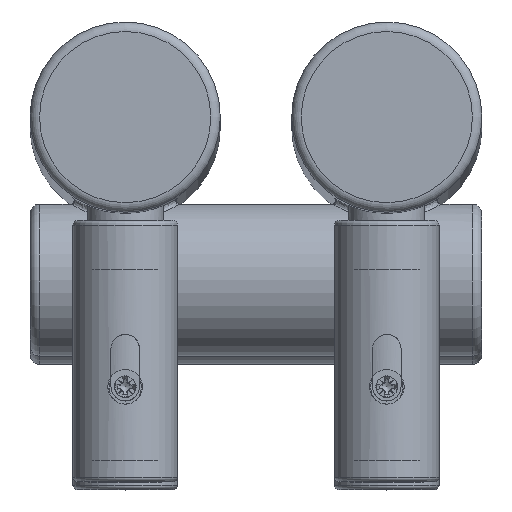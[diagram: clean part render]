
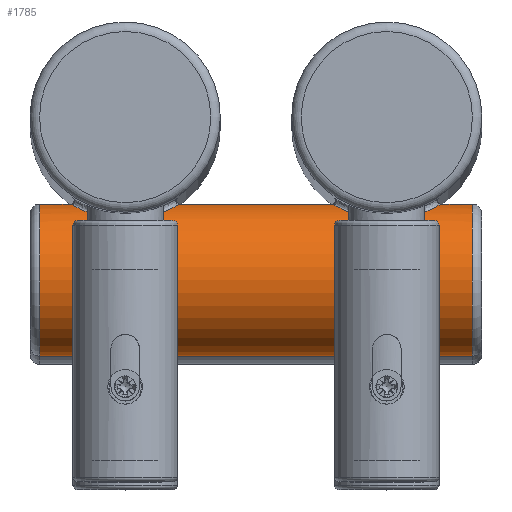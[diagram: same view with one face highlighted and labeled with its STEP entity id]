
A CAD part, top view. The second image highlights one B-rep face of the part: STEP entity #1785.
In plain terms, the highlighted cylindrical face has radius 16 mm (diameter 32 mm), a full revolution.
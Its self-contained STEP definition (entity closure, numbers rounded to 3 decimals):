
#156=FACE_BOUND('',#472,.T.);
#157=FACE_BOUND('',#473,.T.);
#175=LINE('',#3516,#246);
#246=VECTOR('',#2233,16.);
#317=CYLINDRICAL_SURFACE('',#1954,16.);
#348=FACE_OUTER_BOUND('',#471,.T.);
#471=EDGE_LOOP('',(#1265,#1266,#1267,#1268));
#472=EDGE_LOOP('',(#1269));
#473=EDGE_LOOP('',(#1270));
#604=B_SPLINE_CURVE_WITH_KNOTS('',3,(#3491,#3492,#3493,#3494,#3495,#3496,
#3497,#3498,#3499,#3500,#3501,#3502,#3503,#3504,#3505,#3506,#3507,#3508,
#3509,#3510,#3511),.UNSPECIFIED.,.T.,.F.,(4,1,1,1,1,1,1,1,1,1,1,1,1,1,1,
1,1,1,4),(0.,0.367,0.733,0.916,1.1,
1.466,1.711,1.955,2.199,2.444,
2.688,2.933,3.177,3.421,3.666,
3.91,4.399,4.765,5.132),
 .UNSPECIFIED.);
#605=B_SPLINE_CURVE_WITH_KNOTS('',3,(#3519,#3520,#3521,#3522,#3523,#3524,
#3525,#3526,#3527,#3528,#3529,#3530,#3531,#3532,#3533,#3534,#3535,#3536,
#3537,#3538,#3539),.UNSPECIFIED.,.T.,.F.,(4,1,1,1,1,1,1,1,1,1,1,1,1,1,1,
1,1,1,4),(0.,0.367,0.733,0.916,1.1,
1.466,1.711,1.955,2.199,2.444,
2.688,2.933,3.177,3.421,3.666,
3.91,4.399,4.765,5.132),
 .UNSPECIFIED.);
#650=CIRCLE('',#1955,16.);
#651=CIRCLE('',#1956,16.);
#788=VERTEX_POINT('',#3489);
#789=VERTEX_POINT('',#3513);
#790=VERTEX_POINT('',#3515);
#791=VERTEX_POINT('',#3518);
#980=EDGE_CURVE('',#788,#788,#604,.T.);
#981=EDGE_CURVE('',#789,#789,#650,.T.);
#982=EDGE_CURVE('',#789,#790,#175,.T.);
#983=EDGE_CURVE('',#790,#790,#651,.T.);
#984=EDGE_CURVE('',#791,#791,#605,.T.);
#1265=ORIENTED_EDGE('',*,*,#981,.F.);
#1266=ORIENTED_EDGE('',*,*,#982,.T.);
#1267=ORIENTED_EDGE('',*,*,#983,.F.);
#1268=ORIENTED_EDGE('',*,*,#982,.F.);
#1269=ORIENTED_EDGE('',*,*,#984,.F.);
#1270=ORIENTED_EDGE('',*,*,#980,.F.);
#1785=ADVANCED_FACE('',(#348,#156,#157),#317,.T.);
#1954=AXIS2_PLACEMENT_3D('',#3512,#2229,#2230);
#1955=AXIS2_PLACEMENT_3D('',#3514,#2231,#2232);
#1956=AXIS2_PLACEMENT_3D('',#3517,#2234,#2235);
#2229=DIRECTION('center_axis',(-1.,0.,0.));
#2230=DIRECTION('ref_axis',(0.,0.,1.));
#2231=DIRECTION('center_axis',(-1.,0.,0.));
#2232=DIRECTION('ref_axis',(0.,0.,1.));
#2233=DIRECTION('',(1.,0.,0.));
#2234=DIRECTION('center_axis',(1.,0.,0.));
#2235=DIRECTION('ref_axis',(0.,0.,1.));
#3489=CARTESIAN_POINT('',(-55.,-21.257,1054.676));
#3491=CARTESIAN_POINT('Ctrl Pts',(-55.,-21.257,1054.676));
#3492=CARTESIAN_POINT('Ctrl Pts',(-53.333,-21.257,1054.676));
#3493=CARTESIAN_POINT('Ctrl Pts',(-49.992,-20.858,1054.186));
#3494=CARTESIAN_POINT('Ctrl Pts',(-46.526,-19.582,1052.137));
#3495=CARTESIAN_POINT('Ctrl Pts',(-44.675,-18.63,1049.615));
#3496=CARTESIAN_POINT('Ctrl Pts',(-43.539,-17.949,1046.659));
#3497=CARTESIAN_POINT('Ctrl Pts',(-43.538,-17.947,1043.066));
#3498=CARTESIAN_POINT('Ctrl Pts',(-45.013,-18.833,1039.662));
#3499=CARTESIAN_POINT('Ctrl Pts',(-47.203,-19.86,1037.415));
#3500=CARTESIAN_POINT('Ctrl Pts',(-50.072,-20.768,1035.978));
#3501=CARTESIAN_POINT('Ctrl Pts',(-53.318,-21.278,1035.296));
#3502=CARTESIAN_POINT('Ctrl Pts',(-56.682,-21.279,1035.296));
#3503=CARTESIAN_POINT('Ctrl Pts',(-59.929,-20.768,1035.978));
#3504=CARTESIAN_POINT('Ctrl Pts',(-62.797,-19.862,1037.415));
#3505=CARTESIAN_POINT('Ctrl Pts',(-64.989,-18.829,1039.664));
#3506=CARTESIAN_POINT('Ctrl Pts',(-66.247,-18.084,1042.578));
#3507=CARTESIAN_POINT('Ctrl Pts',(-66.602,-17.835,1046.907));
#3508=CARTESIAN_POINT('Ctrl Pts',(-64.645,-19.134,1051.468));
#3509=CARTESIAN_POINT('Ctrl Pts',(-59.999,-20.872,1054.179));
#3510=CARTESIAN_POINT('Ctrl Pts',(-56.667,-21.257,1054.676));
#3511=CARTESIAN_POINT('Ctrl Pts',(-55.,-21.257,1054.676));
#3512=CARTESIAN_POINT('Origin',(20.,-34.,1045.));
#3513=CARTESIAN_POINT('',(-73.,-34.,1029.));
#3514=CARTESIAN_POINT('Origin',(-73.,-34.,1045.));
#3515=CARTESIAN_POINT('',(18.,-34.,1029.));
#3516=CARTESIAN_POINT('',(20.,-34.,1029.));
#3517=CARTESIAN_POINT('Origin',(18.,-34.,1045.));
#3518=CARTESIAN_POINT('',(0.,-21.257,1054.676));
#3519=CARTESIAN_POINT('Ctrl Pts',(0.,-21.257,
1054.676));
#3520=CARTESIAN_POINT('Ctrl Pts',(1.667,-21.257,1054.676));
#3521=CARTESIAN_POINT('Ctrl Pts',(5.008,-20.858,1054.186));
#3522=CARTESIAN_POINT('Ctrl Pts',(8.474,-19.582,1052.137));
#3523=CARTESIAN_POINT('Ctrl Pts',(10.325,-18.63,1049.615));
#3524=CARTESIAN_POINT('Ctrl Pts',(11.461,-17.949,1046.659));
#3525=CARTESIAN_POINT('Ctrl Pts',(11.462,-17.947,1043.066));
#3526=CARTESIAN_POINT('Ctrl Pts',(9.987,-18.833,1039.662));
#3527=CARTESIAN_POINT('Ctrl Pts',(7.797,-19.86,1037.415));
#3528=CARTESIAN_POINT('Ctrl Pts',(4.928,-20.768,1035.978));
#3529=CARTESIAN_POINT('Ctrl Pts',(1.682,-21.278,1035.296));
#3530=CARTESIAN_POINT('Ctrl Pts',(-1.682,-21.279,1035.296));
#3531=CARTESIAN_POINT('Ctrl Pts',(-4.929,-20.768,1035.978));
#3532=CARTESIAN_POINT('Ctrl Pts',(-7.797,-19.862,1037.415));
#3533=CARTESIAN_POINT('Ctrl Pts',(-9.989,-18.829,1039.664));
#3534=CARTESIAN_POINT('Ctrl Pts',(-11.247,-18.084,1042.578));
#3535=CARTESIAN_POINT('Ctrl Pts',(-11.602,-17.835,1046.907));
#3536=CARTESIAN_POINT('Ctrl Pts',(-9.645,-19.134,1051.468));
#3537=CARTESIAN_POINT('Ctrl Pts',(-4.999,-20.872,1054.179));
#3538=CARTESIAN_POINT('Ctrl Pts',(-1.667,-21.257,1054.676));
#3539=CARTESIAN_POINT('Ctrl Pts',(0.,-21.257,
1054.676));
